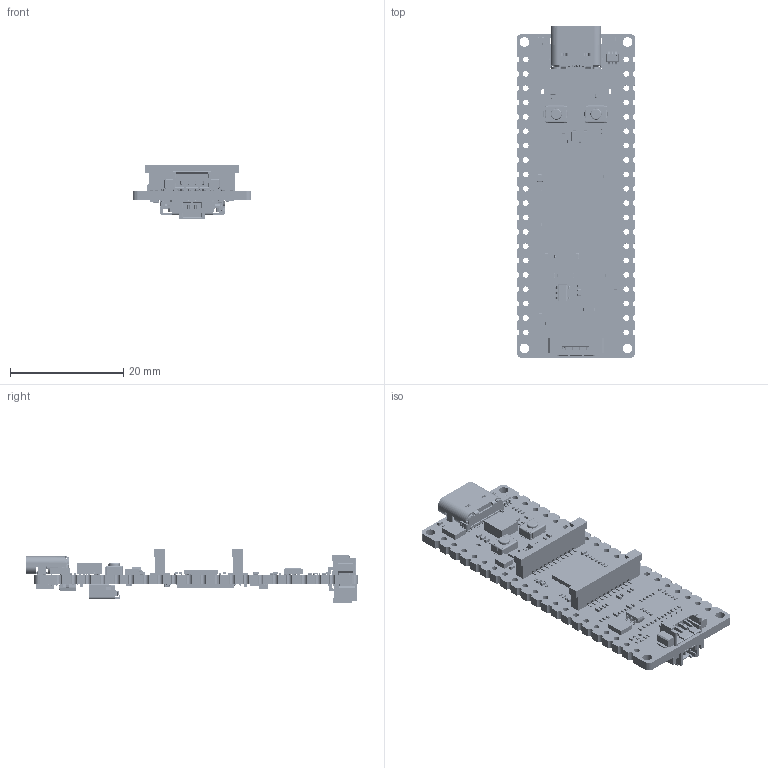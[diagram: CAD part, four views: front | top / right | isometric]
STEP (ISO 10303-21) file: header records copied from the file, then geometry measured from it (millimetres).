
FILE_DESCRIPTION((''),'2;1');
FILE_NAME('ESP32-P4-PICO_ASM','2026-03-31T11:51:03',('xiaojisheng'),(''),'CREO PARAMETRIC BY PTC INC, 2021063','CREO PARAMETRIC BY PTC INC, 2021063','');
FILE_SCHEMA(('CONFIG_CONTROL_DESIGN','SHAPE_APPEARANCE_LAYERS_GROUPS'));
Products named in the file (286): BOARD-745; USER_LIBRARY-0201_0603M__CAP_1; USER_LIBRARY-0201_0603M__CAP_2; USER_LIBRARY-0201_0603M__CAP_3; USER_LIBRARY-0201_0603M__CAP_ASM; C43_ASM; FPC-22PX0_5MM-DISPLAY; J2_ASM; EXTRUDED-79937; 1041233824_ASM; Y1_ASM; EXTRUDED-80332; 1793401504_ASM; Y2_ASM; EXTRUDED-80727; 998242416_ASM; U11_ASM; SOT23-5AND6_00; SOT23-5-14065_AF0; SOT23-5-14113_AF0_ASM_ASM; SOT23-5-2_ASM; U8_ASM; EXTRUDED-137950; 1052233040_ASM; U4_ASM; EXTRUDED-138369; 1041233568_ASM; EXTRUDED-138766; 1818993104_ASM; U3_ASM; USER_LIBRARY-RES_0603-0201_1; USER_LIBRARY-RES_0603-0201_2; USER_LIBRARY-RES_0603-0201_3; USER_LIBRARY-RES_0603-0201_4; USER_LIBRARY-RES_0603-0201_ASM; R73_ASM; R69_ASM; R68_ASM; R62_ASM; R61_ASM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
Assembly tree (479 placements, depth 8):
  ESP32-P4-PICO_ASM
    ESP32-P4-PICO-PCBA_ASM
      PCB_ASM
        BOARD-745
        C43_ASM
          USER_LIBRARY-0201_0603M__CAP_ASM
            USER_LIBRARY-0201_0603M__CAP_1
            USER_LIBRARY-0201_0603M__CAP_2
            USER_LIBRARY-0201_0603M__CAP_3
        J2_ASM
          FPC-22PX0_5MM-DISPLAY
        Y1_ASM
          1041233824_ASM
            EXTRUDED-79937
        Y2_ASM
          1793401504_ASM
            EXTRUDED-80332
        U11_ASM
          998242416_ASM
            EXTRUDED-80727
        U8_ASM
          SOT23-5-2_ASM
            SOT23-5-14113_AF0_ASM_ASM
              SOT23-5AND6_00  x5
              SOT23-5-14065_AF0
        U4_ASM
          1052233040_ASM
            EXTRUDED-137950
        U3_ASM
          1041233568_ASM  x6
            EXTRUDED-138369
          1818993104_ASM
            EXTRUDED-138766
        R73_ASM
          USER_LIBRARY-RES_0603-0201_ASM
            USER_LIBRARY-RES_0603-0201_1
            USER_LIBRARY-RES_0603-0201_2
            USER_LIBRARY-RES_0603-0201_3
            USER_LIBRARY-RES_0603-0201_4
        R69_ASM
          USER_LIBRARY-RES_0603-0201_ASM
            USER_LIBRARY-RES_0603-0201_1
            USER_LIBRARY-RES_0603-0201_2
            USER_LIBRARY-RES_0603-0201_3
            USER_LIBRARY-RES_0603-0201_4
        R68_ASM
          USER_LIBRARY-RES_0603-0201_ASM
            USER_LIBRARY-RES_0603-0201_1
            USER_LIBRARY-RES_0603-0201_2
            USER_LIBRARY-RES_0603-0201_3
            USER_LIBRARY-RES_0603-0201_4
        R62_ASM
          USER_LIBRARY-RES_0603-0201_ASM
            USER_LIBRARY-RES_0603-0201_1
            USER_LIBRARY-RES_0603-0201_2
            USER_LIBRARY-RES_0603-0201_3
            USER_LIBRARY-RES_0603-0201_4
        R61_ASM
          USER_LIBRARY-RES_0603-0201_ASM
            USER_LIBRARY-RES_0603-0201_1
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Bounding box: 21.02 x 58.7 x 9.5 mm (x, y, z)
Volume: 2569.7 mm3; surface area: 6353.7 mm2
Topology: 630 solids, 643 shells, 29812 faces, 77815 edges, 50132 vertices
Faces by surface type: plane 18169, extrusion 7037, cylinder 3553, sphere 943, torus 44, cone 36, bspline 30
Entity records: 267800 total; most frequent: CARTESIAN_POINT 52499, ORIENTED_EDGE 35502, DIRECTION 33564, EDGE_CURVE 17752, VECTOR 14770, LINE 14316, PRESENTATION_STYLE_ASSIGNMENT 11835, VERTEX_POINT 11656
